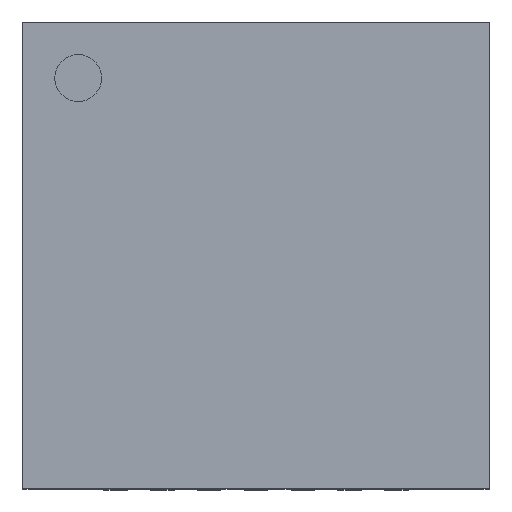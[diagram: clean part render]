
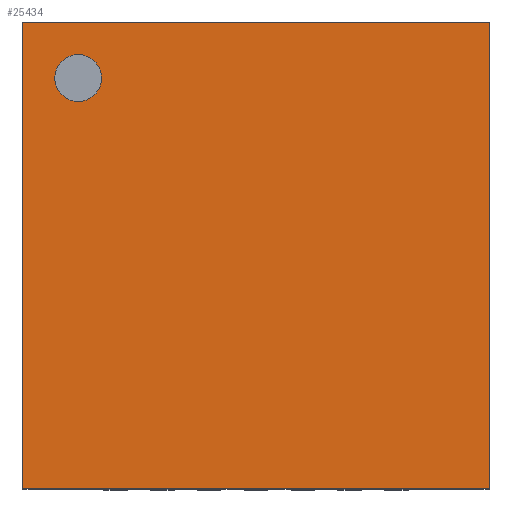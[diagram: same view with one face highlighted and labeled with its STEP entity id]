
A CAD part, top view. The second image highlights one B-rep face of the part: STEP entity #25434.
In plain terms, the highlighted planar face has unit normal (0, 0, 1).
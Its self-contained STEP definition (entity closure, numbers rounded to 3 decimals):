
#231 = PLANE('',#232);
#232 = AXIS2_PLACEMENT_3D('',#233,#234,#235);
#233 = CARTESIAN_POINT('',(-2.49,2.49,0.02));
#234 = DIRECTION('',(0.,-1.,0.));
#235 = DIRECTION('',(0.,0.,1.));
#259 = PLANE('',#260);
#260 = AXIS2_PLACEMENT_3D('',#261,#262,#263);
#261 = CARTESIAN_POINT('',(-2.49,2.49,0.02));
#262 = DIRECTION('',(1.,0.,0.));
#263 = DIRECTION('',(0.,0.,1.));
#2212 = PLANE('',#2213);
#2213 = AXIS2_PLACEMENT_3D('',#2214,#2215,#2216);
#2214 = CARTESIAN_POINT('',(-2.49,-2.49,0.02));
#2215 = DIRECTION('',(0.,-1.,0.));
#2216 = DIRECTION('',(0.,0.,1.));
#4165 = PLANE('',#4166);
#4166 = AXIS2_PLACEMENT_3D('',#4167,#4168,#4169);
#4167 = CARTESIAN_POINT('',(2.49,2.49,0.02));
#4168 = DIRECTION('',(1.,0.,0.));
#4169 = DIRECTION('',(0.,0.,1.));
#8265 = EDGE_CURVE('',#8266,#8268,#8270,.T.);
#8266 = VERTEX_POINT('',#8267);
#8267 = CARTESIAN_POINT('',(-2.49,2.49,0.92));
#8268 = VERTEX_POINT('',#8269);
#8269 = CARTESIAN_POINT('',(2.49,2.49,0.92));
#8270 = SURFACE_CURVE('',#8271,(#8275,#8282),.PCURVE_S1.);
#8271 = LINE('',#8272,#8273);
#8272 = CARTESIAN_POINT('',(-2.49,2.49,0.92));
#8273 = VECTOR('',#8274,1.);
#8274 = DIRECTION('',(1.,0.,0.));
#8275 = PCURVE('',#231,#8276);
#8276 = DEFINITIONAL_REPRESENTATION('',(#8277),#8281);
#8277 = LINE('',#8278,#8279);
#8278 = CARTESIAN_POINT('',(0.9,0.));
#8279 = VECTOR('',#8280,1.);
#8280 = DIRECTION('',(0.,-1.));
#8281 = ( GEOMETRIC_REPRESENTATION_CONTEXT(2) 
PARAMETRIC_REPRESENTATION_CONTEXT() REPRESENTATION_CONTEXT('2D SPACE',''
  ) );
#8282 = PCURVE('',#8283,#8288);
#8283 = PLANE('',#8284);
#8284 = AXIS2_PLACEMENT_3D('',#8285,#8286,#8287);
#8285 = CARTESIAN_POINT('',(-2.49,2.49,0.92));
#8286 = DIRECTION('',(0.,0.,1.));
#8287 = DIRECTION('',(0.,-1.,0.));
#8288 = DEFINITIONAL_REPRESENTATION('',(#8289),#8293);
#8289 = LINE('',#8290,#8291);
#8290 = CARTESIAN_POINT('',(0.,0.));
#8291 = VECTOR('',#8292,1.);
#8292 = DIRECTION('',(0.,1.));
#8293 = ( GEOMETRIC_REPRESENTATION_CONTEXT(2) 
PARAMETRIC_REPRESENTATION_CONTEXT() REPRESENTATION_CONTEXT('2D SPACE',''
  ) );
#12335 = EDGE_CURVE('',#8268,#12336,#12338,.T.);
#12336 = VERTEX_POINT('',#12337);
#12337 = CARTESIAN_POINT('',(2.49,-2.49,0.92));
#12338 = SURFACE_CURVE('',#12339,(#12343,#12350),.PCURVE_S1.);
#12339 = LINE('',#12340,#12341);
#12340 = CARTESIAN_POINT('',(2.49,2.49,0.92));
#12341 = VECTOR('',#12342,1.);
#12342 = DIRECTION('',(0.,-1.,0.));
#12343 = PCURVE('',#4165,#12344);
#12344 = DEFINITIONAL_REPRESENTATION('',(#12345),#12349);
#12345 = LINE('',#12346,#12347);
#12346 = CARTESIAN_POINT('',(0.9,0.));
#12347 = VECTOR('',#12348,1.);
#12348 = DIRECTION('',(0.,1.));
#12349 = ( GEOMETRIC_REPRESENTATION_CONTEXT(2) 
PARAMETRIC_REPRESENTATION_CONTEXT() REPRESENTATION_CONTEXT('2D SPACE',''
  ) );
#12350 = PCURVE('',#8283,#12351);
#12351 = DEFINITIONAL_REPRESENTATION('',(#12352),#12356);
#12352 = LINE('',#12353,#12354);
#12353 = CARTESIAN_POINT('',(0.,4.98));
#12354 = VECTOR('',#12355,1.);
#12355 = DIRECTION('',(1.,0.));
#12356 = ( GEOMETRIC_REPRESENTATION_CONTEXT(2) 
PARAMETRIC_REPRESENTATION_CONTEXT() REPRESENTATION_CONTEXT('2D SPACE',''
  ) );
#16617 = EDGE_CURVE('',#16618,#12336,#16620,.T.);
#16618 = VERTEX_POINT('',#16619);
#16619 = CARTESIAN_POINT('',(-2.49,-2.49,0.92));
#16620 = SURFACE_CURVE('',#16621,(#16625,#16632),.PCURVE_S1.);
#16621 = LINE('',#16622,#16623);
#16622 = CARTESIAN_POINT('',(-2.49,-2.49,0.92));
#16623 = VECTOR('',#16624,1.);
#16624 = DIRECTION('',(1.,0.,0.));
#16625 = PCURVE('',#2212,#16626);
#16626 = DEFINITIONAL_REPRESENTATION('',(#16627),#16631);
#16627 = LINE('',#16628,#16629);
#16628 = CARTESIAN_POINT('',(0.9,0.));
#16629 = VECTOR('',#16630,1.);
#16630 = DIRECTION('',(0.,-1.));
#16631 = ( GEOMETRIC_REPRESENTATION_CONTEXT(2) 
PARAMETRIC_REPRESENTATION_CONTEXT() REPRESENTATION_CONTEXT('2D SPACE',''
  ) );
#16632 = PCURVE('',#8283,#16633);
#16633 = DEFINITIONAL_REPRESENTATION('',(#16634),#16638);
#16634 = LINE('',#16635,#16636);
#16635 = CARTESIAN_POINT('',(4.98,0.));
#16636 = VECTOR('',#16637,1.);
#16637 = DIRECTION('',(0.,1.));
#16638 = ( GEOMETRIC_REPRESENTATION_CONTEXT(2) 
PARAMETRIC_REPRESENTATION_CONTEXT() REPRESENTATION_CONTEXT('2D SPACE',''
  ) );
#20903 = EDGE_CURVE('',#8266,#16618,#20904,.T.);
#20904 = SURFACE_CURVE('',#20905,(#20909,#20916),.PCURVE_S1.);
#20905 = LINE('',#20906,#20907);
#20906 = CARTESIAN_POINT('',(-2.49,2.49,0.92));
#20907 = VECTOR('',#20908,1.);
#20908 = DIRECTION('',(0.,-1.,0.));
#20909 = PCURVE('',#259,#20910);
#20910 = DEFINITIONAL_REPRESENTATION('',(#20911),#20915);
#20911 = LINE('',#20912,#20913);
#20912 = CARTESIAN_POINT('',(0.9,0.));
#20913 = VECTOR('',#20914,1.);
#20914 = DIRECTION('',(0.,1.));
#20915 = ( GEOMETRIC_REPRESENTATION_CONTEXT(2) 
PARAMETRIC_REPRESENTATION_CONTEXT() REPRESENTATION_CONTEXT('2D SPACE',''
  ) );
#20916 = PCURVE('',#8283,#20917);
#20917 = DEFINITIONAL_REPRESENTATION('',(#20918),#20922);
#20918 = LINE('',#20919,#20920);
#20919 = CARTESIAN_POINT('',(0.,0.));
#20920 = VECTOR('',#20921,1.);
#20921 = DIRECTION('',(1.,0.));
#20922 = ( GEOMETRIC_REPRESENTATION_CONTEXT(2) 
PARAMETRIC_REPRESENTATION_CONTEXT() REPRESENTATION_CONTEXT('2D SPACE',''
  ) );
#25434 = ADVANCED_FACE('',(#25435,#25441),#8283,.T.);
#25435 = FACE_BOUND('',#25436,.T.);
#25436 = EDGE_LOOP('',(#25437,#25438,#25439,#25440));
#25437 = ORIENTED_EDGE('',*,*,#8265,.F.);
#25438 = ORIENTED_EDGE('',*,*,#20903,.T.);
#25439 = ORIENTED_EDGE('',*,*,#16617,.T.);
#25440 = ORIENTED_EDGE('',*,*,#12335,.F.);
#25441 = FACE_BOUND('',#25442,.T.);
#25442 = EDGE_LOOP('',(#25443));
#25443 = ORIENTED_EDGE('',*,*,#25444,.T.);
#25444 = EDGE_CURVE('',#25445,#25445,#25447,.T.);
#25445 = VERTEX_POINT('',#25446);
#25446 = CARTESIAN_POINT('',(-1.9,1.65,0.92));
#25447 = SURFACE_CURVE('',#25448,(#25453,#25464),.PCURVE_S1.);
#25448 = CIRCLE('',#25449,0.25);
#25449 = AXIS2_PLACEMENT_3D('',#25450,#25451,#25452);
#25450 = CARTESIAN_POINT('',(-1.9,1.9,0.92));
#25451 = DIRECTION('',(0.,-0.,-1.));
#25452 = DIRECTION('',(0.,-1.,0.));
#25453 = PCURVE('',#8283,#25454);
#25454 = DEFINITIONAL_REPRESENTATION('',(#25455),#25463);
#25455 = ( BOUNDED_CURVE() B_SPLINE_CURVE(2,(#25456,#25457,#25458,#25459
    ,#25460,#25461,#25462),.UNSPECIFIED.,.T.,.F.) 
B_SPLINE_CURVE_WITH_KNOTS((1,2,2,2,2,1),(-2.094,0.,
    2.094,4.189,6.283,8.378),
.UNSPECIFIED.) CURVE() GEOMETRIC_REPRESENTATION_ITEM() 
RATIONAL_B_SPLINE_CURVE((1.,0.5,1.,0.5,1.,0.5,1.)) REPRESENTATION_ITEM(
  '') );
#25456 = CARTESIAN_POINT('',(0.84,0.59));
#25457 = CARTESIAN_POINT('',(0.84,0.157));
#25458 = CARTESIAN_POINT('',(0.465,0.373));
#25459 = CARTESIAN_POINT('',(0.09,0.59));
#25460 = CARTESIAN_POINT('',(0.465,0.807));
#25461 = CARTESIAN_POINT('',(0.84,1.023));
#25462 = CARTESIAN_POINT('',(0.84,0.59));
#25463 = ( GEOMETRIC_REPRESENTATION_CONTEXT(2) 
PARAMETRIC_REPRESENTATION_CONTEXT() REPRESENTATION_CONTEXT('2D SPACE',''
  ) );
#25464 = PCURVE('',#25465,#25470);
#25465 = CYLINDRICAL_SURFACE('',#25466,0.25);
#25466 = AXIS2_PLACEMENT_3D('',#25467,#25468,#25469);
#25467 = CARTESIAN_POINT('',(-1.9,1.9,0.93));
#25468 = DIRECTION('',(0.,0.,-1.));
#25469 = DIRECTION('',(0.,-1.,0.));
#25470 = DEFINITIONAL_REPRESENTATION('',(#25471),#25475);
#25471 = LINE('',#25472,#25473);
#25472 = CARTESIAN_POINT('',(0.,0.01));
#25473 = VECTOR('',#25474,1.);
#25474 = DIRECTION('',(1.,0.));
#25475 = ( GEOMETRIC_REPRESENTATION_CONTEXT(2) 
PARAMETRIC_REPRESENTATION_CONTEXT() REPRESENTATION_CONTEXT('2D SPACE',''
  ) );
